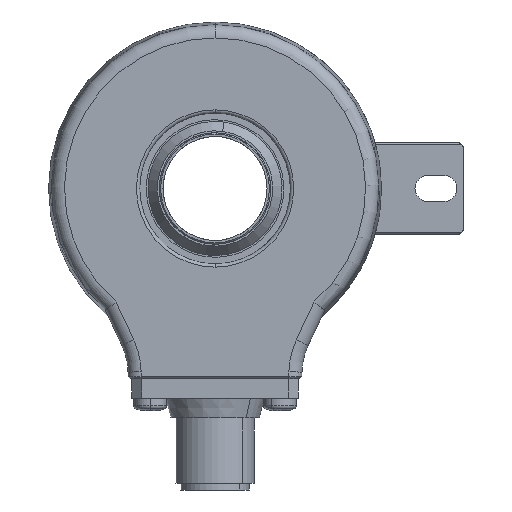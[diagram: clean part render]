
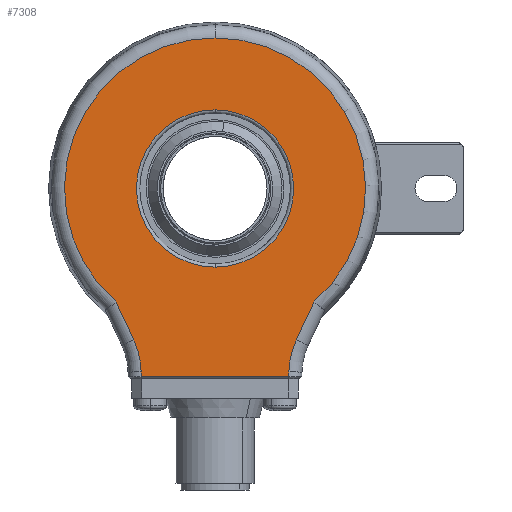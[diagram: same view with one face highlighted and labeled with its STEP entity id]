
A CAD part, left-side view. The second image highlights one B-rep face of the part: STEP entity #7308.
In plain terms, the highlighted planar face has unit normal (-1, 0, 0).
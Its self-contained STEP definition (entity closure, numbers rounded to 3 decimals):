
#942 = CARTESIAN_POINT ( 'NONE',  ( -21., -11.268, -27.974 ) ) ;
#995 = PLANE ( 'NONE',  #1081 ) ;
#1011 = FACE_OUTER_BOUND ( 'NONE', #7281, .T. ) ;
#1012 = DIRECTION ( 'NONE',  ( 0., 0., 1. ) ) ;
#1013 = DIRECTION ( 'NONE',  ( 1., 0., 0. ) ) ;
#1014 = CARTESIAN_POINT ( 'NONE',  ( -21., 0., 0. ) ) ;
#1015 = AXIS2_PLACEMENT_3D ( 'NONE', #1014, #1013, #1012 ) ;
#1016 = CIRCLE ( 'NONE', #1015, 12. ) ;
#1017 = FACE_BOUND ( 'NONE', #7309, .T. ) ;
#1018 = CARTESIAN_POINT ( 'NONE',  ( -21., 12.39, -23.112 ) ) ;
#1078 = DIRECTION ( 'NONE',  ( 0., 0., 1. ) ) ;
#1079 = DIRECTION ( 'NONE',  ( 1., 0., 0. ) ) ;
#1080 = CARTESIAN_POINT ( 'NONE',  ( -21., 0., 0. ) ) ;
#1081 = AXIS2_PLACEMENT_3D ( 'NONE', #1080, #1079, #1078 ) ;
#1106 = DIRECTION ( 'NONE',  ( 1., 0., 0. ) ) ;
#1107 = CARTESIAN_POINT ( 'NONE',  ( -21., -23.266, -28.183 ) ) ;
#1108 = AXIS2_PLACEMENT_3D ( 'NONE', #1107, #1106, #1198 ) ;
#1109 = CIRCLE ( 'NONE', #1108, 12. ) ;
#1151 = DIRECTION ( 'NONE',  ( 0., 0., 1. ) ) ;
#1152 = DIRECTION ( 'NONE',  ( 1., 0., 0. ) ) ;
#1153 = CARTESIAN_POINT ( 'NONE',  ( -21., 23.266, -28.183 ) ) ;
#1154 = AXIS2_PLACEMENT_3D ( 'NONE', #1153, #1152, #1151 ) ;
#1155 = CIRCLE ( 'NONE', #1154, 12. ) ;
#1198 = DIRECTION ( 'NONE',  ( 0., 0., 1. ) ) ;
#1224 = CARTESIAN_POINT ( 'NONE',  ( -21., -15.091, -17.32 ) ) ;
#1240 = DIRECTION ( 'NONE',  ( 0., -0.423, -0.906 ) ) ;
#1241 = VECTOR ( 'NONE', #1240, 1000. ) ;
#1242 = CARTESIAN_POINT ( 'NONE',  ( -21., 12.39, -23.112 ) ) ;
#1243 = LINE ( 'NONE', #1242, #1241 ) ;
#1244 = CARTESIAN_POINT ( 'NONE',  ( -21., 11.268, -27.974 ) ) ;
#1250 = DIRECTION ( 'NONE',  ( 0., 0., 1. ) ) ;
#1251 = DIRECTION ( 'NONE',  ( -1., 0., 0. ) ) ;
#1252 = CARTESIAN_POINT ( 'NONE',  ( -21., 0., 0. ) ) ;
#1253 = AXIS2_PLACEMENT_3D ( 'NONE', #1252, #1251, #1250 ) ;
#1254 = CIRCLE ( 'NONE', #1253, 22.972 ) ;
#1394 = DIRECTION ( 'NONE',  ( 0., -0.017, 1. ) ) ;
#1395 = VECTOR ( 'NONE', #1394, 1000. ) ;
#1396 = CARTESIAN_POINT ( 'NONE',  ( -21., -11.752, -0.205 ) ) ;
#1397 = LINE ( 'NONE', #1396, #1395 ) ;
#1399 = CARTESIAN_POINT ( 'NONE',  ( -21., -11.255, -28.695 ) ) ;
#1400 = DIRECTION ( 'NONE',  ( 0., -1., 0. ) ) ;
#1401 = VECTOR ( 'NONE', #1400, 1000. ) ;
#1402 = CARTESIAN_POINT ( 'NONE',  ( -21., -11.25, -28.695 ) ) ;
#1403 = LINE ( 'NONE', #1402, #1401 ) ;
#1404 = CARTESIAN_POINT ( 'NONE',  ( -21., 11.255, -28.695 ) ) ;
#1405 = DIRECTION ( 'NONE',  ( 0., -0.017, -1. ) ) ;
#1406 = VECTOR ( 'NONE', #1405, 1000. ) ;
#1407 = CARTESIAN_POINT ( 'NONE',  ( -21., 11.752, -0.205 ) ) ;
#1408 = LINE ( 'NONE', #1407, #1406 ) ;
#1526 = CARTESIAN_POINT ( 'NONE',  ( -21., 15.091, -17.32 ) ) ;
#1527 = CARTESIAN_POINT ( 'NONE',  ( -21., 0., 22.972 ) ) ;
#1528 = DIRECTION ( 'NONE',  ( 0., 0., 1. ) ) ;
#1529 = DIRECTION ( 'NONE',  ( -1., 0., 0. ) ) ;
#1530 = CARTESIAN_POINT ( 'NONE',  ( -21., 0., 0. ) ) ;
#1531 = AXIS2_PLACEMENT_3D ( 'NONE', #1530, #1529, #1528 ) ;
#1532 = CIRCLE ( 'NONE', #1531, 22.972 ) ;
#1534 = CARTESIAN_POINT ( 'NONE',  ( -21., -12.39, -23.112 ) ) ;
#1535 = DIRECTION ( 'NONE',  ( 0., -0.423, 0.906 ) ) ;
#1536 = VECTOR ( 'NONE', #1535, 1000. ) ;
#1537 = CARTESIAN_POINT ( 'NONE',  ( -21., -14.953, -17.615 ) ) ;
#1538 = LINE ( 'NONE', #1537, #1536 ) ;
#6879 = VERTEX_POINT ( 'NONE', #14765 ) ;
#6881 = EDGE_CURVE ( 'NONE', #6882, #6879, #14764, .T. ) ;
#6882 = VERTEX_POINT ( 'NONE', #14759 ) ;
#7271 = VERTEX_POINT ( 'NONE', #942 ) ;
#7280 = ORIENTED_EDGE ( 'NONE', *, *, #7307, .T. ) ;
#7281 = EDGE_LOOP ( 'NONE', ( #7282, #7404, #7407, #7409, #7410, #7411, #7412, #7413, #7414 ) ) ;
#7282 = ORIENTED_EDGE ( 'NONE', *, *, #7402, .T. ) ;
#7302 = VERTEX_POINT ( 'NONE', #1018 ) ;
#7307 = EDGE_CURVE ( 'NONE', #6879, #6882, #1016, .T. ) ;
#7308 = ADVANCED_FACE ( 'NONE', ( #1017, #1011 ), #995, .F. ) ;
#7309 = EDGE_LOOP ( 'NONE', ( #7310, #7280 ) ) ;
#7310 = ORIENTED_EDGE ( 'NONE', *, *, #6881, .T. ) ;
#7339 = EDGE_CURVE ( 'NONE', #7271, #7451, #1109, .T. ) ;
#7351 = EDGE_CURVE ( 'NONE', #7380, #7454, #1254, .T. ) ;
#7353 = VERTEX_POINT ( 'NONE', #1244 ) ;
#7356 = EDGE_CURVE ( 'NONE', #7455, #7302, #1243, .T. ) ;
#7367 = EDGE_CURVE ( 'NONE', #7302, #7353, #1155, .T. ) ;
#7380 = VERTEX_POINT ( 'NONE', #1224 ) ;
#7402 = EDGE_CURVE ( 'NONE', #7353, #7403, #1408, .T. ) ;
#7403 = VERTEX_POINT ( 'NONE', #1404 ) ;
#7404 = ORIENTED_EDGE ( 'NONE', *, *, #7405, .T. ) ;
#7405 = EDGE_CURVE ( 'NONE', #7403, #7406, #1403, .T. ) ;
#7406 = VERTEX_POINT ( 'NONE', #1399 ) ;
#7407 = ORIENTED_EDGE ( 'NONE', *, *, #7408, .T. ) ;
#7408 = EDGE_CURVE ( 'NONE', #7406, #7271, #1397, .T. ) ;
#7409 = ORIENTED_EDGE ( 'NONE', *, *, #7339, .T. ) ;
#7410 = ORIENTED_EDGE ( 'NONE', *, *, #7450, .T. ) ;
#7411 = ORIENTED_EDGE ( 'NONE', *, *, #7351, .T. ) ;
#7412 = ORIENTED_EDGE ( 'NONE', *, *, #7453, .T. ) ;
#7413 = ORIENTED_EDGE ( 'NONE', *, *, #7356, .T. ) ;
#7414 = ORIENTED_EDGE ( 'NONE', *, *, #7367, .T. ) ;
#7450 = EDGE_CURVE ( 'NONE', #7451, #7380, #1538, .T. ) ;
#7451 = VERTEX_POINT ( 'NONE', #1534 ) ;
#7453 = EDGE_CURVE ( 'NONE', #7454, #7455, #1532, .T. ) ;
#7454 = VERTEX_POINT ( 'NONE', #1527 ) ;
#7455 = VERTEX_POINT ( 'NONE', #1526 ) ;
#14759 = CARTESIAN_POINT ( 'NONE',  ( -21., 0., 12. ) ) ;
#14760 = DIRECTION ( 'NONE',  ( 0., 0., 1. ) ) ;
#14761 = DIRECTION ( 'NONE',  ( 1., 0., 0. ) ) ;
#14762 = CARTESIAN_POINT ( 'NONE',  ( -21., 0., 0. ) ) ;
#14763 = AXIS2_PLACEMENT_3D ( 'NONE', #14762, #14761, #14760 ) ;
#14764 = CIRCLE ( 'NONE', #14763, 12. ) ;
#14765 = CARTESIAN_POINT ( 'NONE',  ( -21., 0., -12. ) ) ;
